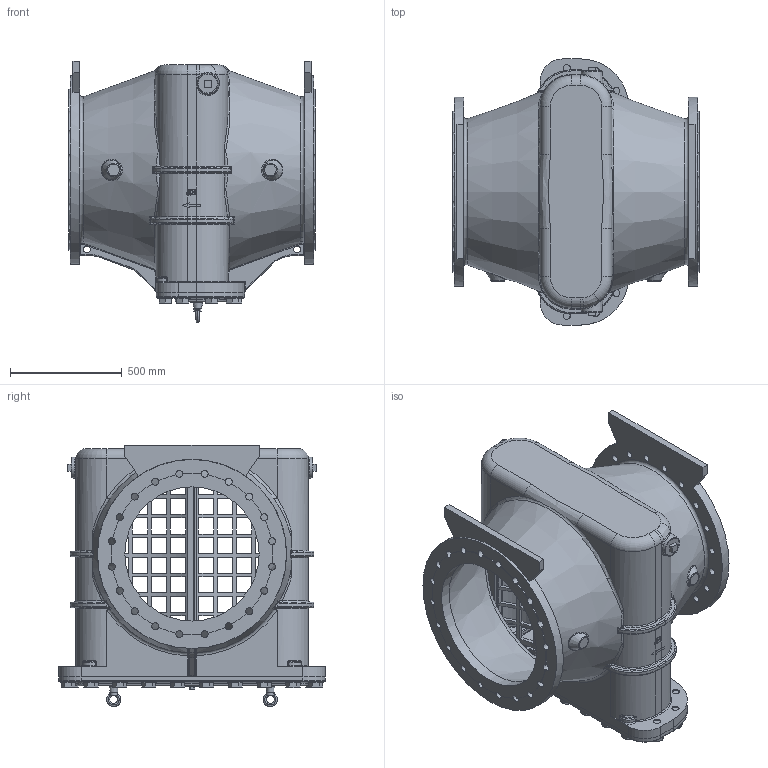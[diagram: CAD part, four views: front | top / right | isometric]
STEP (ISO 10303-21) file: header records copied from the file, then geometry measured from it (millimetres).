
FILE_DESCRIPTION(/* description */ (''),/* implementation_level */ '2;1');
FILE_NAME(/* name */ 'C:\_VaultWorkspace\FAB60010.stp',/* time_stamp */ '2015-07-08T11:48:56+02:00',/* author */ ('sylvain'),/* organization */ (''),/* preprocessor_version */ 'ST-DEVELOPER v16.1',/* originating_system */ 'Autodesk Inventor 2016',/* authorisation */ '');
FILE_SCHEMA (('AUTOMOTIVE_DESIGN { 1 0 10303 214 3 1 1 }'));
Products named in the file (11): 205243; 205242; 73240-25; 57576-07; 57507; 57576-02; ISO 4144 Bouchons mâles P1 3; DIN EN 24018 - M36 x 65DIN EN; ISO 7089 - 36 - 140 HV(1); DIN 580 - M16 x 27 x 1.5 x 1; FAB60010
Assembly tree (51 placements, depth 3):
  FAB60010
    205243
    205242
    73240-25  x2
    57576-02
      57576-07
      57507
    ISO 4144 Bouchons mâles P1 3  x2
    DIN EN 24018 - M36 x 65DIN EN  x20
    ISO 7089 - 36 - 140 HV(1)  x20
    DIN 580 - M16 x 27 x 1.5 x 1  x2
Bounding box: 1100 x 1190 x 1167 mm (x, y, z)
Volume: 127405106.7 mm3; surface area: 12618342 mm2
Topology: 50 solids, 50 shells, 3026 faces, 7747 edges, 4781 vertices
Faces by surface type: plane 1418, cylinder 647, bspline 379, torus 308, cone 189, sphere 85
Full cylindrical faces by diameter (mm): 1.6 x1, 2.3 x1, 6.5 x1, 6.92 x1, 8 x1, 13.84 x2, 14 x1, 15 x2, 16 x2, 18.63 x1, 20.955 x1, 30 x2, 31 x40, 31.67 x20, 36 x40, 37 x20, 53.026 x2, 66 x20, 81 x2, 84 x2, 84.93 x2, 600 x2, 845 x2
Entity records: 81109 total; most frequent: CARTESIAN_POINT 25610, ORIENTED_EDGE 11582, DIRECTION 11031, EDGE_CURVE 5791, AXIS2_PLACEMENT_3D 4102, VERTEX_POINT 3671, LINE 2827, VECTOR 2827
